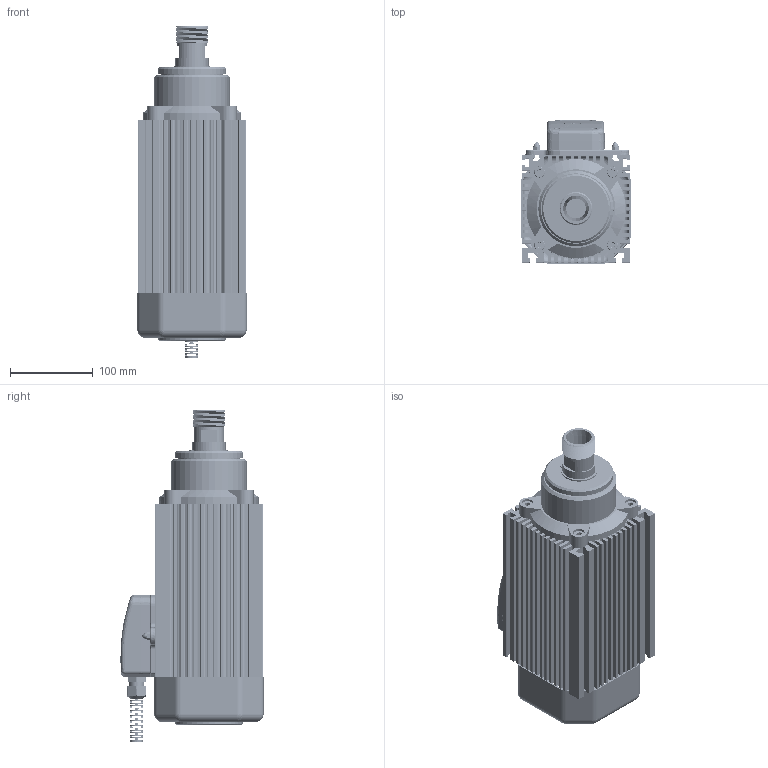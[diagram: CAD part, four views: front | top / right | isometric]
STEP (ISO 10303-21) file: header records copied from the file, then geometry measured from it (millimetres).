
FILE_DESCRIPTION (( 'STEP AP203' ), '1' );
FILE_NAME ('ARFM.4K-M ER 32.STEP', '2022-04-04T12:03:41', ( '' ), ( '' ), 'SwSTEP 2.0', 'SolidWorks 2014', '' );
FILE_SCHEMA (( 'CONFIG_CONTROL_DESIGN' ));
Length unit declared in the file: millimetre
Products named in the file (22): klemens kutusu montaj tabansýz; 471-40 Sekman_98541A156; Klemens Kutusu  alt tabansýz; Arfm.4K-M Gövdesi; ARFM.4K-M ER 32; M4x10 inpus_91290A176; rekor2; Arfm.4K Ön Toz Kapaðý; no1 motor klemensi; 4K Klemens Kutusu Montaj; Arfm.4K Plastik Klemens Altlýk; Klemens Kutusu Kapaðý Kademeli; Arfm.4K Ön Kapak Çift Bilyalý; Yukseltme Parcasi; rekor3; Arfm.4K Rotor Mili ER 32; M5x10 inpus_91290A252; M8x20 inpus_96144A215; Somun M5 K顤; rekor1; Arfm.4K Plastik Tas Kapak; Somun M5_90592A095
Assembly tree (38 placements, depth 4):
  ARFM.4K-M ER 32
    Arfm.4K-M Gövdesi
    Arfm.4K Ön Kapak Çift Bilyalý
    Arfm.4K Plastik Tas Kapak
    Arfm.4K Ön Toz Kapaðý
    Arfm.4K Rotor Mili ER 32
    471-40 Sekman_98541A156
    4K Klemens Kutusu Montaj
      Arfm.4K Plastik Klemens Altlýk
      Somun M5 K顤  x3
      M4x10 inpus_91290A176  x4
      Yukseltme Parcasi  x4
      Somun M5_90592A095  x6
      no1 motor klemensi
      M5x10 inpus_91290A252  x2
      klemens kutusu montaj tabansýz
        Klemens Kutusu  alt tabansýz
        Klemens Kutusu Kapaðý Kademeli
        rekor1
        rekor2
        rekor3
    M8x20 inpus_96144A215  x4
Bounding box: 132 x 172.94 x 401.01 mm (x, y, z)
Volume: 1577162.6 mm3; surface area: 659353.2 mm2
Topology: 54 solids, 54 shells, 3824 faces, 10358 edges, 6639 vertices
Faces by surface type: cylinder 1696, plane 1370, cone 547, bspline 136, torus 45, sphere 30
Entity records: 104921 total; most frequent: CARTESIAN_POINT 34471, ORIENTED_EDGE 14966, DIRECTION 13287, EDGE_CURVE 7483, VERTEX_POINT 4829, AXIS2_PLACEMENT_3D 4655, LINE 3977, VECTOR 3977
